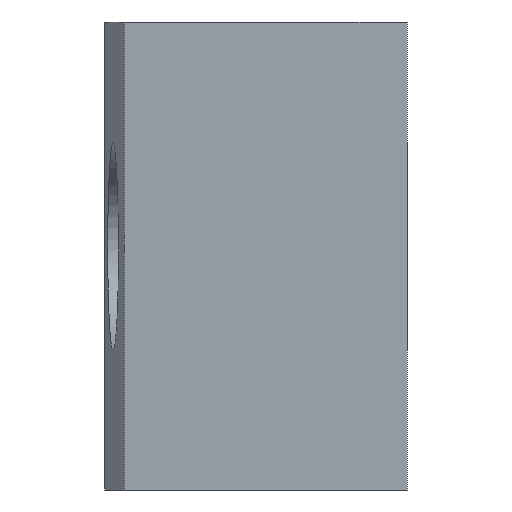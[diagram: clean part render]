
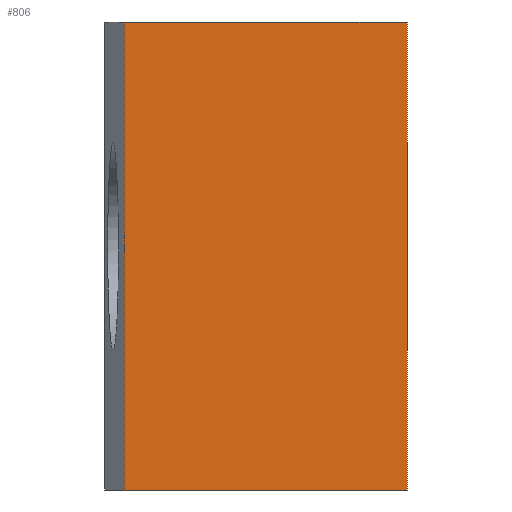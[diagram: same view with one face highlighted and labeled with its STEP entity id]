
A CAD part, front view. The second image highlights one B-rep face of the part: STEP entity #806.
In plain terms, the highlighted planar face has unit normal (0, -1, 0).
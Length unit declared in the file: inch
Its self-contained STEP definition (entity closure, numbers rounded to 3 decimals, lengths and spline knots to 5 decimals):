
#59=LINE('',#1234,#159);
#115=LINE('',#1342,#215);
#117=LINE('',#1345,#217);
#118=LINE('',#1346,#218);
#159=VECTOR('',#945,0.3937);
#215=VECTOR('',#1033,0.3937);
#217=VECTOR('',#1037,0.3937);
#218=VECTOR('',#1038,0.3937);
#250=PLANE('',#859);
#291=FACE_OUTER_BOUND('',#336,.T.);
#336=EDGE_LOOP('',(#716,#717,#718,#719));
#397=VERTEX_POINT('',#1231);
#398=VERTEX_POINT('',#1233);
#433=VERTEX_POINT('',#1339);
#434=VERTEX_POINT('',#1341);
#483=EDGE_CURVE('',#397,#398,#59,.T.);
#539=EDGE_CURVE('',#434,#433,#115,.T.);
#541=EDGE_CURVE('',#433,#398,#117,.T.);
#542=EDGE_CURVE('',#434,#397,#118,.T.);
#716=ORIENTED_EDGE('',*,*,#539,.T.);
#717=ORIENTED_EDGE('',*,*,#541,.T.);
#718=ORIENTED_EDGE('',*,*,#483,.F.);
#719=ORIENTED_EDGE('',*,*,#542,.F.);
#806=ADVANCED_FACE('',(#291),#250,.T.);
#859=AXIS2_PLACEMENT_3D('',#1344,#1035,#1036);
#945=DIRECTION('',(1.,0.,0.));
#1033=DIRECTION('',(1.,0.,0.));
#1035=DIRECTION('center_axis',(0.,-1.,0.));
#1036=DIRECTION('ref_axis',(1.,0.,0.));
#1037=DIRECTION('',(0.,0.,1.));
#1038=DIRECTION('',(0.,0.,1.));
#1231=CARTESIAN_POINT('',(-0.2175,0.,0.36));
#1233=CARTESIAN_POINT('',(0.,0.,0.36));
#1234=CARTESIAN_POINT('',(-0.2175,0.,0.36));
#1339=CARTESIAN_POINT('',(0.,0.,0.));
#1341=CARTESIAN_POINT('',(-0.2175,0.,0.));
#1342=CARTESIAN_POINT('',(-0.2175,0.,0.));
#1344=CARTESIAN_POINT('Origin',(-0.2175,0.,0.));
#1345=CARTESIAN_POINT('',(0.,0.,0.));
#1346=CARTESIAN_POINT('',(-0.2175,0.,0.));
